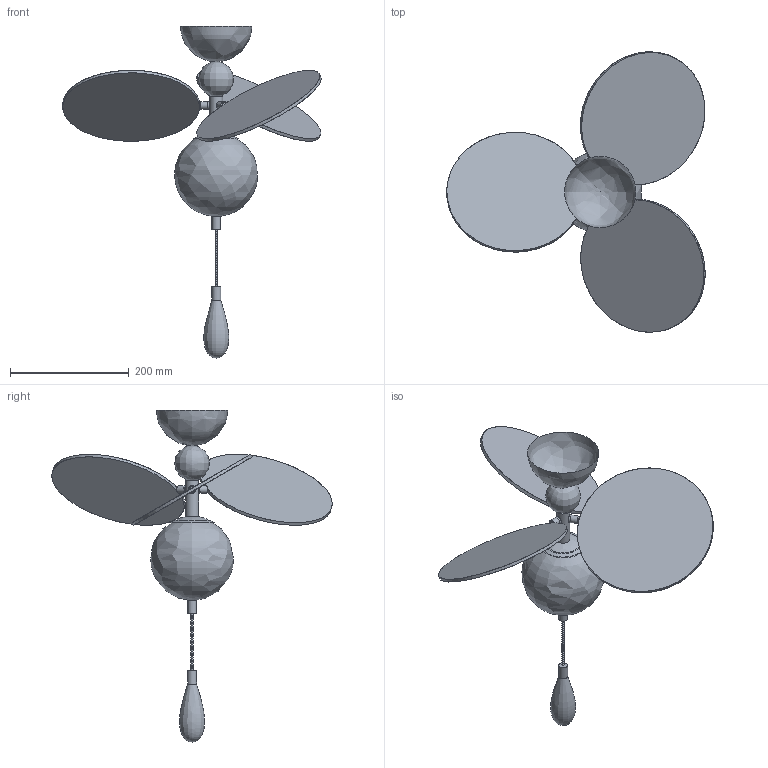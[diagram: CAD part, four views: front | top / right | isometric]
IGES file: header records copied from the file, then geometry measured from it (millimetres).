
Global section: file name: Z:\; native system: Rhinoceros ( Nov 10 2025 ); preprocessor: Trout Lake IGES 012 Nov 10 2025; date: 260625.014028; units: millimetre
Bounding box: 434.51 x 471.67 x 558.32 mm (x, y, z)
Surface area: 412538.7 mm2 (no closed solid volume)
Topology: 0 solids, 0 shells, 80 faces, 246 edges, 172 vertices
Faces by surface type: bspline 80
